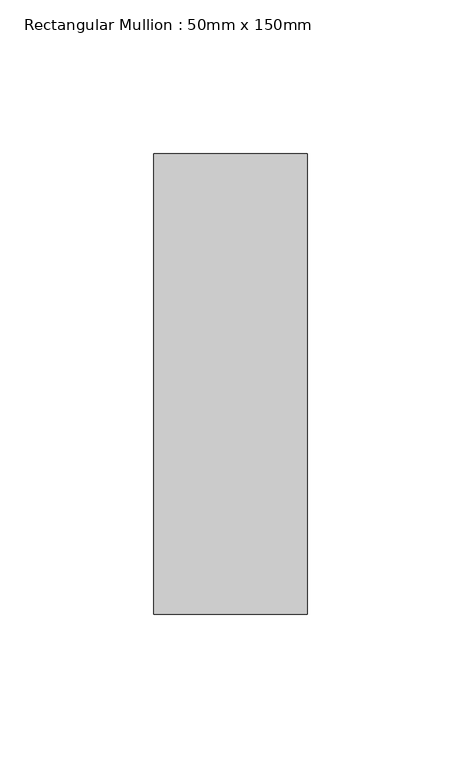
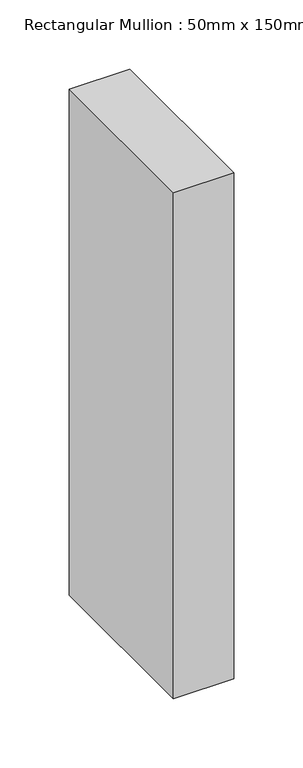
"""IFC4 building model written with IfcOpenShell, lengths in millimetres: member geometry, Rectangular Mullion : 50mm x 150mm."""

from ifc_helpers import new_model, si_unit, frame, origin, place, context, project, spatial, polyline, outline, extrude, source, transform, mapped, element, save


def rectangular_mullion_50mm_x_150mm_c5372db2(model_context):
    return source(origin(), model_context, "Body", "SweptSolid", [
        extrude(outline(polyline([(25.0, 75.0), (25.0, -75.0), (-25.0, -75.0), (-25.0, 75.0), (25.0, 75.0)])), frame((0.0, 0.0, -444.9403709), z_axis=(0.0, 0.0, 1.0), x_axis=(1.0, 0.0, 0.0)), (0.0, 0.0, 1.0), 444.9403709),
    ])


if __name__ == "__main__":
    model = new_model("IFC4")
    model_context = context("Model", 3, world=origin())
    ifc_project = project(units=[si_unit("LENGTHUNIT", "METRE", prefix="MILLI")], contexts=[model_context])
    site = spatial("IfcSite", under=ifc_project)
    building = spatial("IfcBuilding", under=site)
    placement = place(None, origin())
    rectangular_mullion_50mm_x_150mm_shape = rectangular_mullion_50mm_x_150mm_c5372db2(model_context)
    element("IfcMember", 1, ObjectType="Rectangular Mullion : 50mm x 150mm", at=placement, inside=building, context=model_context, shape_type="MappedRepresentation", body=[
        mapped(rectangular_mullion_50mm_x_150mm_shape, transform((0.0, 0.0, 0.0), x_axis=(1.0, 0.0, 0.0), y_axis=(0.0, 1.0, 0.0), z_axis=(0.0, 0.0, 1.0))),
    ])
    save(model, "model.ifc")
